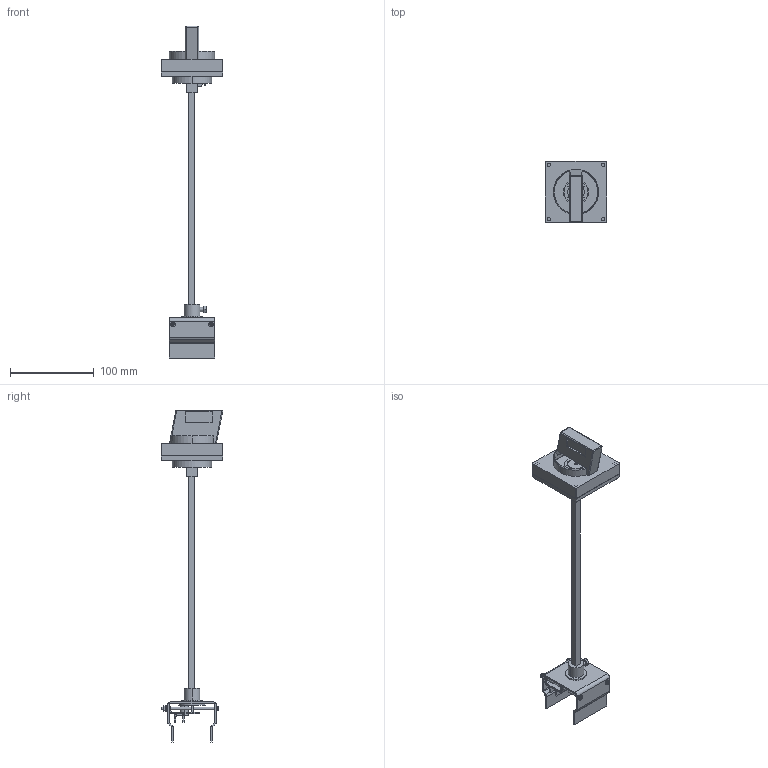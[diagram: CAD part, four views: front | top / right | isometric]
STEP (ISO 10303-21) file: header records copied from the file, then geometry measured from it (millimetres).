
FILE_DESCRIPTION (( 'STEP AP214' ), '1' );
FILE_NAME ('Ðóêîÿòêà äëÿ TGB3.STEP', '2025-12-04T11:06:34', ( '' ), ( '' ), 'SwSTEP 2.0', 'SolidWorks 2024', '' );
FILE_SCHEMA (( 'AUTOMOTIVE_DESIGN' ));
Length unit declared in the file: millimetre
Products named in the file (2): Рукоятка для TGB3; Рукоятка для TGB3 в сборе
Assembly tree (1 placements, depth 2):
  Рукоятка для TGB3
    Рукоятка для TGB3 в сборе
Bounding box: 74 x 74 x 397 mm (x, y, z)
Volume: 202001.2 mm3; surface area: 80586 mm2
Topology: 16 solids, 16 shells, 701 faces, 1602 edges, 944 vertices
Faces by surface type: plane 405, cylinder 153, cone 93, torus 29, sphere 11, bspline 10
Entity records: 21102 total; most frequent: CARTESIAN_POINT 5196, DIRECTION 3371, ORIENTED_EDGE 3176, EDGE_CURVE 1588, AXIS2_PLACEMENT_3D 1253, VERTEX_POINT 944, LINE 865, VECTOR 865
